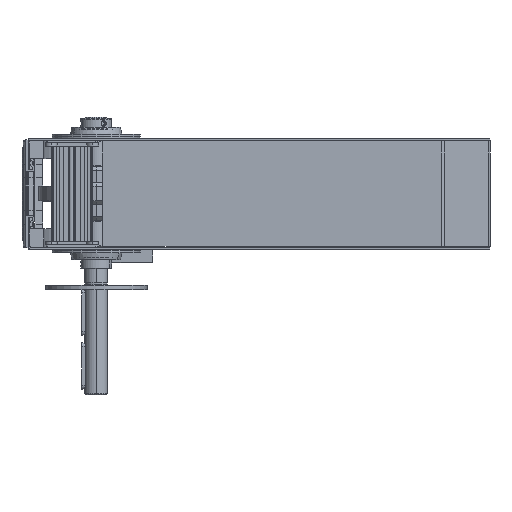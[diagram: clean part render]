
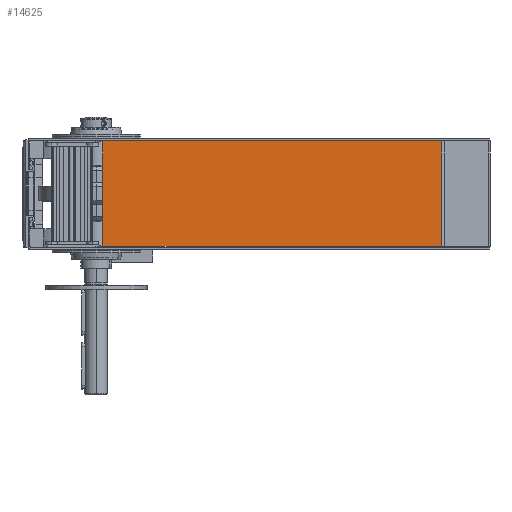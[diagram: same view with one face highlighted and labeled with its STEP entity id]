
A CAD part, left-side view. The second image highlights one B-rep face of the part: STEP entity #14625.
In plain terms, the highlighted planar face has unit normal (-1, 0, 0).
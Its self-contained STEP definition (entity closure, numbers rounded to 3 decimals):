
#10839 = CARTESIAN_POINT ( 'NONE',  ( -263.5, 415., 114. ) ) ;
#12230 = CARTESIAN_POINT ( 'NONE',  ( -263.5, 48.305, 114. ) ) ;
#13450 = DIRECTION ( 'NONE',  ( -1., 0., 0. ) ) ;
#14322 = ORIENTED_EDGE ( 'NONE', *, *, #61162, .F. ) ;
#14625 = ADVANCED_FACE ( 'NONE', ( #42933 ), #57462, .T. ) ;
#15867 = CARTESIAN_POINT ( 'NONE',  ( -263.5, 48.305, 0. ) ) ;
#17949 = VECTOR ( 'NONE', #64785, 1000. ) ;
#22082 = LINE ( 'NONE', #12230, #66216 ) ;
#22623 = DIRECTION ( 'NONE',  ( 0., 0., 1. ) ) ;
#23311 = CARTESIAN_POINT ( 'NONE',  ( -263.5, 415., 114. ) ) ;
#23384 = EDGE_LOOP ( 'NONE', ( #61380, #14322, #44749, #33739 ) ) ;
#23881 = LINE ( 'NONE', #62537, #27864 ) ;
#27864 = VECTOR ( 'NONE', #51791, 1000. ) ;
#31115 = EDGE_CURVE ( 'NONE', #40706, #40700, #32072, .T. ) ;
#32072 = LINE ( 'NONE', #10839, #62568 ) ;
#32197 = DIRECTION ( 'NONE',  ( 0., 0., -1. ) ) ;
#33739 = ORIENTED_EDGE ( 'NONE', *, *, #31115, .T. ) ;
#33982 = CARTESIAN_POINT ( 'NONE',  ( -263.5, 48.305, 114. ) ) ;
#35487 = EDGE_CURVE ( 'NONE', #63210, #40706, #60463, .T. ) ;
#40405 = AXIS2_PLACEMENT_3D ( 'NONE', #43539, #13450, #22623 ) ;
#40700 = VERTEX_POINT ( 'NONE', #63940 ) ;
#40706 = VERTEX_POINT ( 'NONE', #23311 ) ;
#42933 = FACE_OUTER_BOUND ( 'NONE', #23384, .T. ) ;
#43539 = CARTESIAN_POINT ( 'NONE',  ( -263.5, 48., 114. ) ) ;
#44749 = ORIENTED_EDGE ( 'NONE', *, *, #35487, .T. ) ;
#47274 = EDGE_CURVE ( 'NONE', #55485, #40700, #23881, .T. ) ;
#51791 = DIRECTION ( 'NONE',  ( 0., 1., 0. ) ) ;
#55485 = VERTEX_POINT ( 'NONE', #15867 ) ;
#57008 = DIRECTION ( 'NONE',  ( 0., 0., -1. ) ) ;
#57462 = PLANE ( 'NONE',  #40405 ) ;
#60106 = CARTESIAN_POINT ( 'NONE',  ( -263.5, 48., 114. ) ) ;
#60463 = LINE ( 'NONE', #60106, #17949 ) ;
#61162 = EDGE_CURVE ( 'NONE', #63210, #55485, #22082, .T. ) ;
#61380 = ORIENTED_EDGE ( 'NONE', *, *, #47274, .F. ) ;
#62537 = CARTESIAN_POINT ( 'NONE',  ( -263.5, 48., 0. ) ) ;
#62568 = VECTOR ( 'NONE', #57008, 1000. ) ;
#63210 = VERTEX_POINT ( 'NONE', #33982 ) ;
#63940 = CARTESIAN_POINT ( 'NONE',  ( -263.5, 415., 0. ) ) ;
#64785 = DIRECTION ( 'NONE',  ( 0., 1., 0. ) ) ;
#66216 = VECTOR ( 'NONE', #32197, 1000. ) ;
